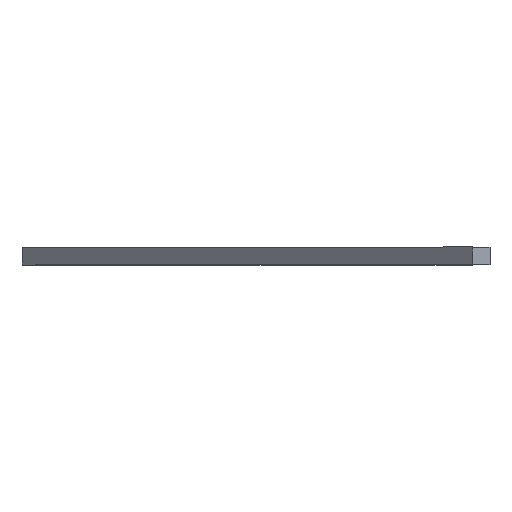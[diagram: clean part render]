
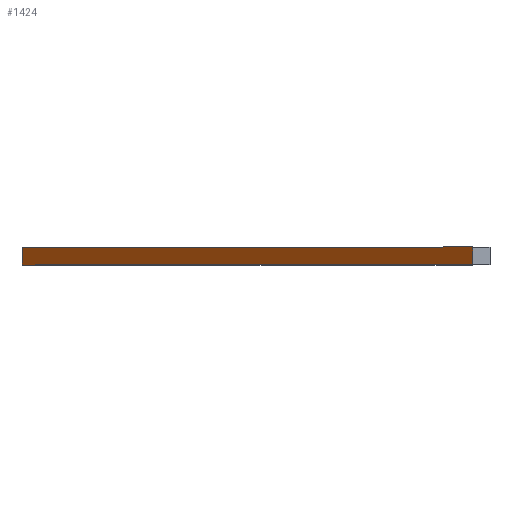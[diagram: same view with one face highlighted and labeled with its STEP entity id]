
A CAD part, top view. The second image highlights one B-rep face of the part: STEP entity #1424.
In plain terms, the highlighted planar face has unit normal (-0.707, 0, 0.707).
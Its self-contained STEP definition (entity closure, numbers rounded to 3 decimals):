
#21 = EDGE_CURVE('',#22,#24,#26,.T.);
#22 = VERTEX_POINT('',#23);
#23 = CARTESIAN_POINT('',(12.728,241.,18.));
#24 = VERTEX_POINT('',#25);
#25 = CARTESIAN_POINT('',(12.728,259.,18.));
#26 = SURFACE_CURVE('',#27,(#31,#43),.PCURVE_S1.);
#27 = LINE('',#28,#29);
#28 = CARTESIAN_POINT('',(12.728,241.,18.));
#29 = VECTOR('',#30,1.);
#30 = DIRECTION('',(0.,1.,0.));
#31 = PCURVE('',#32,#37);
#32 = PLANE('',#33);
#33 = AXIS2_PLACEMENT_3D('',#34,#35,#36);
#34 = CARTESIAN_POINT('',(12.728,241.,18.));
#35 = DIRECTION('',(0.,0.,-1.));
#36 = DIRECTION('',(1.,0.,0.));
#37 = DEFINITIONAL_REPRESENTATION('',(#38),#42);
#38 = LINE('',#39,#40);
#39 = CARTESIAN_POINT('',(0.,0.));
#40 = VECTOR('',#41,1.);
#41 = DIRECTION('',(0.,-1.));
#42 = ( GEOMETRIC_REPRESENTATION_CONTEXT(2) 
PARAMETRIC_REPRESENTATION_CONTEXT() REPRESENTATION_CONTEXT('2D SPACE',''
  ) );
#43 = PCURVE('',#44,#49);
#44 = PLANE('',#45);
#45 = AXIS2_PLACEMENT_3D('',#46,#47,#48);
#46 = CARTESIAN_POINT('',(482.,241.,487.272));
#47 = DIRECTION('',(-0.707,0.,0.707));
#48 = DIRECTION('',(-0.707,0.,-0.707));
#49 = DEFINITIONAL_REPRESENTATION('',(#50),#54);
#50 = LINE('',#51,#52);
#51 = CARTESIAN_POINT('',(663.651,0.));
#52 = VECTOR('',#53,1.);
#53 = DIRECTION('',(0.,-1.));
#54 = ( GEOMETRIC_REPRESENTATION_CONTEXT(2) 
PARAMETRIC_REPRESENTATION_CONTEXT() REPRESENTATION_CONTEXT('2D SPACE',''
  ) );
#72 = PLANE('',#73);
#73 = AXIS2_PLACEMENT_3D('',#74,#75,#76);
#74 = CARTESIAN_POINT('',(324.285,259.,175.715));
#75 = DIRECTION('',(-0.,-1.,-0.));
#76 = DIRECTION('',(0.,0.,-1.));
#126 = PLANE('',#127);
#127 = AXIS2_PLACEMENT_3D('',#128,#129,#130);
#128 = CARTESIAN_POINT('',(324.285,241.,175.715));
#129 = DIRECTION('',(-0.,-1.,-0.));
#130 = DIRECTION('',(0.,0.,-1.));
#1321 = PLANE('',#1322);
#1322 = AXIS2_PLACEMENT_3D('',#1323,#1324,#1325);
#1323 = CARTESIAN_POINT('',(482.,241.,350.));
#1324 = DIRECTION('',(1.,0.,0.));
#1325 = DIRECTION('',(0.,0.,1.));
#1359 = VERTEX_POINT('',#1360);
#1360 = CARTESIAN_POINT('',(482.,259.,487.272));
#1381 = EDGE_CURVE('',#1382,#1359,#1384,.T.);
#1382 = VERTEX_POINT('',#1383);
#1383 = CARTESIAN_POINT('',(482.,241.,487.272));
#1384 = SURFACE_CURVE('',#1385,(#1389,#1396),.PCURVE_S1.);
#1385 = LINE('',#1386,#1387);
#1386 = CARTESIAN_POINT('',(482.,241.,487.272));
#1387 = VECTOR('',#1388,1.);
#1388 = DIRECTION('',(0.,1.,0.));
#1389 = PCURVE('',#1321,#1390);
#1390 = DEFINITIONAL_REPRESENTATION('',(#1391),#1395);
#1391 = LINE('',#1392,#1393);
#1392 = CARTESIAN_POINT('',(137.272,0.));
#1393 = VECTOR('',#1394,1.);
#1394 = DIRECTION('',(0.,-1.));
#1395 = ( GEOMETRIC_REPRESENTATION_CONTEXT(2) 
PARAMETRIC_REPRESENTATION_CONTEXT() REPRESENTATION_CONTEXT('2D SPACE',''
  ) );
#1396 = PCURVE('',#44,#1397);
#1397 = DEFINITIONAL_REPRESENTATION('',(#1398),#1402);
#1398 = LINE('',#1399,#1400);
#1399 = CARTESIAN_POINT('',(0.,0.));
#1400 = VECTOR('',#1401,1.);
#1401 = DIRECTION('',(0.,-1.));
#1402 = ( GEOMETRIC_REPRESENTATION_CONTEXT(2) 
PARAMETRIC_REPRESENTATION_CONTEXT() REPRESENTATION_CONTEXT('2D SPACE',''
  ) );
#1424 = ADVANCED_FACE('',(#1425),#44,.T.);
#1425 = FACE_BOUND('',#1426,.T.);
#1426 = EDGE_LOOP('',(#1427,#1428,#1449,#1450));
#1427 = ORIENTED_EDGE('',*,*,#1381,.T.);
#1428 = ORIENTED_EDGE('',*,*,#1429,.T.);
#1429 = EDGE_CURVE('',#1359,#24,#1430,.T.);
#1430 = SURFACE_CURVE('',#1431,(#1435,#1442),.PCURVE_S1.);
#1431 = LINE('',#1432,#1433);
#1432 = CARTESIAN_POINT('',(482.,259.,487.272));
#1433 = VECTOR('',#1434,1.);
#1434 = DIRECTION('',(-0.707,0.,-0.707));
#1435 = PCURVE('',#44,#1436);
#1436 = DEFINITIONAL_REPRESENTATION('',(#1437),#1441);
#1437 = LINE('',#1438,#1439);
#1438 = CARTESIAN_POINT('',(0.,-18.));
#1439 = VECTOR('',#1440,1.);
#1440 = DIRECTION('',(1.,0.));
#1441 = ( GEOMETRIC_REPRESENTATION_CONTEXT(2) 
PARAMETRIC_REPRESENTATION_CONTEXT() REPRESENTATION_CONTEXT('2D SPACE',''
  ) );
#1442 = PCURVE('',#72,#1443);
#1443 = DEFINITIONAL_REPRESENTATION('',(#1444),#1448);
#1444 = LINE('',#1445,#1446);
#1445 = CARTESIAN_POINT('',(-311.557,157.715));
#1446 = VECTOR('',#1447,1.);
#1447 = DIRECTION('',(0.707,-0.707));
#1448 = ( GEOMETRIC_REPRESENTATION_CONTEXT(2) 
PARAMETRIC_REPRESENTATION_CONTEXT() REPRESENTATION_CONTEXT('2D SPACE',''
  ) );
#1449 = ORIENTED_EDGE('',*,*,#21,.F.);
#1450 = ORIENTED_EDGE('',*,*,#1451,.F.);
#1451 = EDGE_CURVE('',#1382,#22,#1452,.T.);
#1452 = SURFACE_CURVE('',#1453,(#1457,#1464),.PCURVE_S1.);
#1453 = LINE('',#1454,#1455);
#1454 = CARTESIAN_POINT('',(482.,241.,487.272));
#1455 = VECTOR('',#1456,1.);
#1456 = DIRECTION('',(-0.707,0.,-0.707));
#1457 = PCURVE('',#44,#1458);
#1458 = DEFINITIONAL_REPRESENTATION('',(#1459),#1463);
#1459 = LINE('',#1460,#1461);
#1460 = CARTESIAN_POINT('',(0.,0.));
#1461 = VECTOR('',#1462,1.);
#1462 = DIRECTION('',(1.,0.));
#1463 = ( GEOMETRIC_REPRESENTATION_CONTEXT(2) 
PARAMETRIC_REPRESENTATION_CONTEXT() REPRESENTATION_CONTEXT('2D SPACE',''
  ) );
#1464 = PCURVE('',#126,#1465);
#1465 = DEFINITIONAL_REPRESENTATION('',(#1466),#1470);
#1466 = LINE('',#1467,#1468);
#1467 = CARTESIAN_POINT('',(-311.557,157.715));
#1468 = VECTOR('',#1469,1.);
#1469 = DIRECTION('',(0.707,-0.707));
#1470 = ( GEOMETRIC_REPRESENTATION_CONTEXT(2) 
PARAMETRIC_REPRESENTATION_CONTEXT() REPRESENTATION_CONTEXT('2D SPACE',''
  ) );
